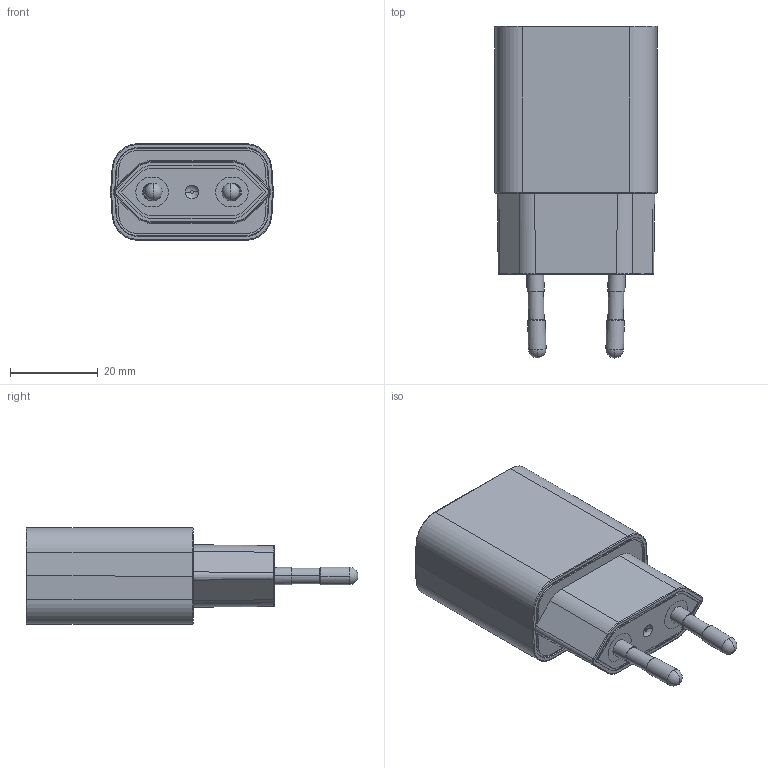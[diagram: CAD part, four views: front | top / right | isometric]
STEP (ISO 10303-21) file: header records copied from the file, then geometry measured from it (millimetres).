
FILE_DESCRIPTION((''),'2;1');
FILE_NAME('VEU10US050-EU','2018-08-16T16:19:43',('jquinto'),(''),'CREO PARAMETRIC BY PTC INC, 2018100','CREO PARAMETRIC BY PTC INC, 2018100','');
FILE_SCHEMA(('CONFIG_CONTROL_DESIGN'));
Length unit declared in the file: millimetre
Products named in the file (1): VEU10US050-EU
Bounding box: 37 x 75.51 x 22 mm (x, y, z)
Volume: 36573.2 mm3; surface area: 13543.5 mm2
Topology: 1 solids, 9 shells, 847 faces, 2418 edges, 1546 vertices
Faces by surface type: plane 481, cylinder 176, bspline 69, cone 57, torus 42, sphere 12, extrusion 10
Entity records: 32669 total; most frequent: CARTESIAN_POINT 11499, ORIENTED_EDGE 4776, DIRECTION 3866, EDGE_CURVE 2406, VERTEX_POINT 1546, VECTOR 1488, LINE 1478, AXIS2_PLACEMENT_3D 1189
